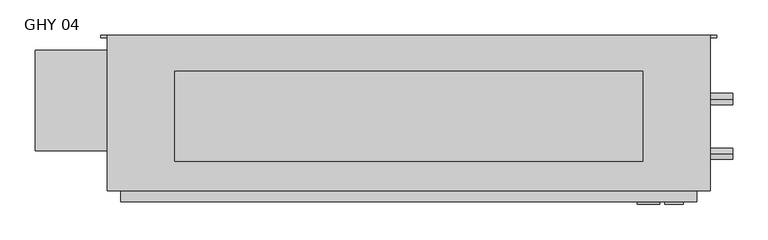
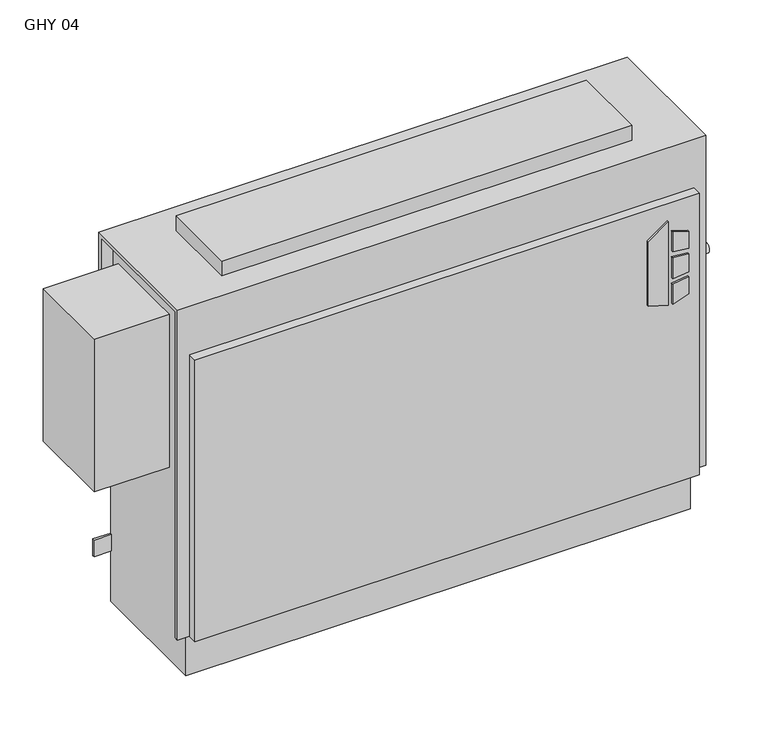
"""IFC4 building model written with IfcOpenShell, lengths in millimetres: proxy geometry, Vertical_Fan_Coil_Unit_-_GHY_-_IEC_-_2-Pipe_TS-FR_RH_2022 : GHY 04."""

from ifc_helpers import new_model, si_unit, point, frame, frame_2d, origin, place, context, project, spatial, polyline, circle_curve, trimmed, segment, composite_curve, outline, extrude, source, transform, mapped, element, save
from ifc_brep_helpers import plane_surface, revolved_surface, advanced_brep


def ghy_04_6b61c7ca(model_context):
    return source(origin(), model_context, "Body", "SolidModel", [
        extrude(outline(polyline([(391.6086829, 474.7368862), (381.6606126, 506.9102728), (523.831537, 506.9102728), (500.8095309, 474.7368862), (391.6086829, 474.7368862)])), frame((0.0, 6.35, 0.0), z_axis=(0.0, 1.0, 0.0), x_axis=(0.0, 0.0, 1.0)), (0.0, 0.0, 1.0), 3.175),
        extrude(outline(polyline([(470.6079683, 513.6686058), (467.4055757, 539.75), (496.6344168, 539.75), (504.6988318, 513.6686058), (470.6079683, 513.6686058)])), frame((0.0, 6.35, 0.0), z_axis=(0.0, 1.0, 0.0), x_axis=(0.0, 0.0, 1.0)), (0.0, 0.0, 1.0), 3.175),
        extrude(outline(polyline([(418.7444414, 539.75), (415.0789404, 513.6686058), (381.6606126, 513.6686058), (390.2948498, 539.75), (418.7444414, 539.75)])), frame((0.0, 6.35, 0.0), z_axis=(0.0, 1.0, 0.0), x_axis=(0.0, 0.0, 1.0)), (0.0, 0.0, 1.0), 3.175),
        extrude(outline(polyline([(458.0596028, 539.75), (460.3414292, 513.6686058), (424.4038806, 513.6686058), (427.1451456, 539.75), (458.0596028, 539.75)])), frame((0.0, 6.35, 0.0), z_axis=(0.0, 1.0, 0.0), x_axis=(0.0, 0.0, 1.0)), (0.0, 0.0, 1.0), 3.175),
        extrude(outline(polyline([(482.6, 193.675), (482.6, 66.675), (-177.8, 66.675), (-177.8, 193.675), (482.6, 193.675)])), frame((0.0, 0.0, 635.0), z_axis=(0.0, 0.0, 1.0), x_axis=(1.0, 0.0, 0.0)), (0.0, 0.0, 1.0), 25.4),
        extrude(outline(composite_curve([segment(trimmed(circle_curve(frame_2d((77.597, 401.574)), 7.9375), [point((77.597, 393.6365))], [point((77.597, 409.5115))], False, "CARTESIAN"), True, "CONTINUOUS"), segment(trimmed(circle_curve(frame_2d((77.597, 401.574)), 7.9375), [point((77.597, 409.5115))], [point((77.597, 393.6365))], False, "CARTESIAN"), True, "CONTINUOUS")], self_intersect=False)), frame((558.8, 0.0, 0.0), z_axis=(1.0, 0.0, 0.0), x_axis=(0.0, 1.0, 0.0)), (0.0, 0.0, 1.0), 50.8),
        extrude(outline(composite_curve([segment(trimmed(circle_curve(frame_2d((154.559, 540.512)), 7.9375), [point((154.559, 532.5745))], [point((154.559, 548.4495))], False, "CARTESIAN"), True, "CONTINUOUS"), segment(trimmed(circle_curve(frame_2d((154.559, 540.512)), 7.9375), [point((154.559, 548.4495))], [point((154.559, 532.5745))], False, "CARTESIAN"), True, "CONTINUOUS")], self_intersect=False)), frame((558.8, 0.0, 0.0), z_axis=(1.0, 0.0, 0.0), x_axis=(0.0, 1.0, 0.0)), (0.0, 0.0, 1.0), 50.8),
        extrude(outline(polyline([(-374.65, 223.266), (-254.0, 223.266), (-254.0, 81.534), (-374.65, 81.534), (-374.65, 223.266)])), frame((0.0, 0.0, 327.025), z_axis=(0.0, 0.0, 1.0), x_axis=(1.0, 0.0, 0.0)), (0.0, 0.0, 1.0), 260.35),
        advanced_brep(
        [(577.85, 244.475, 635.0), (-273.05, 244.475, 635.0), (-273.05, 25.4, 635.0), (577.85, 25.4, 635.0), (-254.0, 244.475, 0.0), (558.8, 244.475, 0.0), (558.8, 34.925, 0.0), (-254.0, 34.925, 0.0), (577.85, 244.475, 558.8), (558.8, 244.475, 558.8), (558.8, 244.475, 414.3375), (587.375, 244.475, 414.3375), (587.375, 244.475, 385.7625), (558.8, 244.475, 385.7625), (558.8, 244.475, 287.3375), (587.375, 244.475, 287.3375), (587.375, 244.475, 258.7625), (558.8, 244.475, 258.7625), (558.8, 244.475, 141.2875), (587.375, 244.475, 141.2875), (587.375, 244.475, 112.7125), (558.8, 244.475, 112.7125), (-254.0, 244.475, 87.3125), (-282.575, 244.475, 87.3125), (-282.575, 244.475, 115.8875), (-254.0, 244.475, 115.8875), (-254.0, 244.475, 258.7625), (-282.575, 244.475, 258.7625), (-282.575, 244.475, 287.3375), (-254.0, 244.475, 287.3375), (-254.0, 244.475, 385.7625), (-282.575, 244.475, 385.7625), (-282.575, 244.475, 414.3375), (-254.0, 244.475, 414.3375), (-254.0, 244.475, 558.8), (-273.05, 244.475, 558.8), (577.0626, 244.475, 127.0), (565.9374, 244.475, 127.0), (577.0626, 244.475, 273.05), (565.9374, 244.475, 273.05), (-261.1374, 244.475, 273.05), (-272.2626, 244.475, 273.05), (577.0626, 244.475, 400.05), (565.9374, 244.475, 400.05), (-261.1374, 244.475, 400.05), (-272.2626, 244.475, 400.05), (-273.05, 238.125, 558.8), (-273.05, 238.125, 628.65), (-273.05, 31.75, 628.65), (-273.05, 31.75, 73.025), (-273.05, 25.4, 73.025), (558.8, 9.525, 552.45), (-254.0, 9.525, 552.45), (-254.0, 9.525, 73.025), (558.8, 9.525, 73.025), (577.85, 25.4, 73.025), (577.85, 31.75, 73.025), (577.85, 31.75, 628.65), (577.85, 238.125, 628.65), (577.85, 238.125, 558.8), (-254.0, 25.4, 73.025), (-254.0, 25.4, 552.45), (558.8, 25.4, 552.45), (558.8, 25.4, 73.025), (-254.0, 31.75, 73.025), (-254.0, 34.925, 73.025), (558.8, 34.925, 73.025), (558.8, 31.75, 73.025), (558.8, 241.3, 112.7125), (558.8, 241.3, 141.2875), (558.8, 241.3, 258.7625), (558.8, 241.3, 287.3375), (558.8, 241.3, 385.7625), (558.8, 241.3, 414.3375), (558.8, 238.125, 558.8), (558.8, 238.125, 628.65), (558.8, 31.75, 628.65), (-254.0, 31.75, 628.65), (-254.0, 238.125, 628.65), (-254.0, 238.125, 558.8), (-254.0, 241.3, 414.3375), (-254.0, 241.3, 385.7625), (-254.0, 241.3, 287.3375), (-254.0, 241.3, 258.7625), (-254.0, 241.3, 115.8875), (-254.0, 241.3, 87.3125), (587.375, 241.3, 112.7125), (587.375, 241.3, 141.2875), (565.9374, 241.3, 127.0), (577.0626, 241.3, 127.0), (587.375, 241.3, 258.7625), (587.375, 241.3, 287.3375), (565.9374, 241.3, 273.05), (577.0626, 241.3, 273.05), (587.375, 241.3, 385.7625), (587.375, 241.3, 414.3375), (565.9374, 241.3, 400.05), (577.0626, 241.3, 400.05), (-282.575, 241.3, 115.8875), (-282.575, 241.3, 87.3125), (-282.575, 241.3, 287.3375), (-282.575, 241.3, 258.7625), (-272.2626, 241.3, 273.05), (-261.1374, 241.3, 273.05), (-282.575, 241.3, 414.3375), (-282.575, 241.3, 385.7625), (-272.2626, 241.3, 400.05), (-261.1374, 241.3, 400.05)],
        [
            (0, 1),
            (1, 2),
            (2, 3),
            (3, 0),
            (4, 5),
            (5, 6),
            (6, 7),
            (7, 4),
            (0, 8),
            (8, 9),
            (9, 10),
            (10, 11),
            (11, 12),
            (12, 13),
            (13, 14),
            (14, 15),
            (15, 16),
            (16, 17),
            (17, 18),
            (18, 19),
            (19, 20),
            (20, 21),
            (21, 5),
            (4, 22),
            (22, 23),
            (23, 24),
            (24, 25),
            (25, 26),
            (26, 27),
            (27, 28),
            (28, 29),
            (29, 30),
            (30, 31),
            (31, 32),
            (32, 33),
            (33, 34),
            (34, 35),
            (35, 1),
            (36, 37, circle_curve(frame((571.5, 244.475, 127.0), z_axis=(0.0, -1.0, 0.0), x_axis=(-1.0, 0.0, 0.0)), 5.5626)),
            (37, 36, circle_curve(frame((571.5, 244.475, 127.0), z_axis=(0.0, -1.0, 0.0), x_axis=(-1.0, 0.0, 0.0)), 5.5626)),
            (38, 39, circle_curve(frame((571.5, 244.475, 273.05), z_axis=(0.0, -1.0, 0.0), x_axis=(-1.0, 0.0, 0.0)), 5.5626)),
            (39, 38, circle_curve(frame((571.5, 244.475, 273.05), z_axis=(0.0, -1.0, 0.0), x_axis=(-1.0, 0.0, 0.0)), 5.5626)),
            (40, 41, circle_curve(frame((-266.7, 244.475, 273.05), z_axis=(0.0, -1.0, 0.0), x_axis=(-1.0, 0.0, 0.0)), 5.5626)),
            (41, 40, circle_curve(frame((-266.7, 244.475, 273.05), z_axis=(0.0, -1.0, 0.0), x_axis=(-1.0, 0.0, 0.0)), 5.5626)),
            (42, 43, circle_curve(frame((571.5, 244.475, 400.05), z_axis=(0.0, -1.0, 0.0), x_axis=(-1.0, 0.0, 0.0)), 5.5626)),
            (43, 42, circle_curve(frame((571.5, 244.475, 400.05), z_axis=(0.0, -1.0, 0.0), x_axis=(-1.0, 0.0, 0.0)), 5.5626)),
            (44, 45, circle_curve(frame((-266.7, 244.475, 400.05), z_axis=(0.0, -1.0, 0.0), x_axis=(-1.0, 0.0, 0.0)), 5.5626)),
            (45, 44, circle_curve(frame((-266.7, 244.475, 400.05), z_axis=(0.0, -1.0, 0.0), x_axis=(-1.0, 0.0, 0.0)), 5.5626)),
            (35, 46),
            (46, 47),
            (47, 48),
            (48, 49),
            (49, 50),
            (50, 2),
            (51, 52),
            (52, 53),
            (53, 54),
            (54, 51),
            (3, 55),
            (55, 56),
            (56, 57),
            (57, 58),
            (58, 59),
            (59, 8),
            (50, 60),
            (60, 61),
            (61, 62),
            (62, 63),
            (63, 55),
            (51, 62),
            (61, 52),
            (53, 60),
            (49, 64),
            (64, 65),
            (65, 66),
            (66, 67),
            (67, 56),
            (63, 54),
            (6, 66),
            (65, 7),
            (21, 68),
            (68, 69),
            (69, 18),
            (17, 70),
            (70, 71),
            (71, 14),
            (13, 72),
            (72, 73),
            (73, 10),
            (9, 74),
            (74, 75),
            (75, 76),
            (76, 67),
            (64, 77),
            (77, 78),
            (78, 79),
            (79, 34),
            (33, 80),
            (80, 81),
            (81, 30),
            (29, 82),
            (82, 83),
            (83, 26),
            (25, 84),
            (84, 85),
            (85, 22),
            (74, 59),
            (58, 75),
            (76, 57),
            (48, 77),
            (79, 46),
            (78, 47),
            (68, 86),
            (86, 87),
            (87, 69),
            (88, 89, circle_curve(frame((571.5, 241.3, 127.0), z_axis=(0.0, 1.0, 0.0), x_axis=(-1.0, 0.0, 0.0)), 5.5626)),
            (89, 88, circle_curve(frame((571.5, 241.3, 127.0), z_axis=(0.0, 1.0, 0.0), x_axis=(-1.0, 0.0, 0.0)), 5.5626)),
            (90, 91),
            (91, 71),
            (70, 90),
            (92, 93, circle_curve(frame((571.5, 241.3, 273.05), z_axis=(0.0, 1.0, 0.0), x_axis=(-1.0, 0.0, 0.0)), 5.5626)),
            (93, 92, circle_curve(frame((571.5, 241.3, 273.05), z_axis=(0.0, 1.0, 0.0), x_axis=(-1.0, 0.0, 0.0)), 5.5626)),
            (94, 95),
            (95, 73),
            (72, 94),
            (96, 97, circle_curve(frame((571.5, 241.3, 400.05), z_axis=(0.0, 1.0, 0.0), x_axis=(-1.0, 0.0, 0.0)), 5.5626)),
            (97, 96, circle_curve(frame((571.5, 241.3, 400.05), z_axis=(0.0, 1.0, 0.0), x_axis=(-1.0, 0.0, 0.0)), 5.5626)),
            (98, 99),
            (99, 85),
            (84, 98),
            (82, 100),
            (100, 101),
            (101, 83),
            (102, 103, circle_curve(frame((-266.7, 241.3, 273.05), z_axis=(0.0, 1.0, 0.0), x_axis=(-1.0, 0.0, 0.0)), 5.5626)),
            (103, 102, circle_curve(frame((-266.7, 241.3, 273.05), z_axis=(0.0, 1.0, 0.0), x_axis=(-1.0, 0.0, 0.0)), 5.5626)),
            (104, 105),
            (105, 81),
            (80, 104),
            (106, 107, circle_curve(frame((-266.7, 241.3, 400.05), z_axis=(0.0, 1.0, 0.0), x_axis=(-1.0, 0.0, 0.0)), 5.5626)),
            (107, 106, circle_curve(frame((-266.7, 241.3, 400.05), z_axis=(0.0, 1.0, 0.0), x_axis=(-1.0, 0.0, 0.0)), 5.5626)),
            (87, 19),
            (86, 20),
            (16, 90),
            (91, 15),
            (12, 94),
            (95, 11),
            (24, 98),
            (99, 23),
            (101, 27),
            (100, 28),
            (32, 104),
            (105, 31),
            (88, 37),
            (36, 89),
            (92, 39),
            (38, 93),
            (102, 41),
            (40, 103),
            (96, 43),
            (42, 97),
            (106, 45),
            (44, 107),
        ],
        [
            plane_surface(frame((-273.05, 244.475, 635.0), z_axis=(0.0, 0.0, 1.0), x_axis=(-1.0, 0.0, 0.0))),
            plane_surface(frame((-273.05, 244.475, 0.0), z_axis=(0.0, 0.0, -1.0), x_axis=(1.0, 0.0, 0.0))),
            plane_surface(frame((577.85, 244.475, 635.0), z_axis=(0.0, 1.0, 0.0), x_axis=(0.0, 0.0, -1.0))),
            plane_surface(frame((-273.05, 244.475, 635.0), z_axis=(-1.0, 0.0, 0.0), x_axis=(0.0, 0.0, -1.0))),
            plane_surface(frame((-273.05, 9.525, 635.0), z_axis=(0.0, -1.0, 0.0), x_axis=(0.0, 0.0, -1.0))),
            plane_surface(frame((577.85, 9.525, 635.0), z_axis=(1.0, 0.0, 0.0), x_axis=(0.0, 0.0, -1.0))),
            plane_surface(frame((-400.05, 25.4, 635.0), z_axis=(0.0, -1.0, 0.0), x_axis=(1.0, 0.0, 0.0))),
            plane_surface(frame((-400.05, 25.4, 552.45), z_axis=(0.0, 0.0, 1.0), x_axis=(1.0, 0.0, 0.0))),
            plane_surface(frame((-273.05, 9.525, 73.025), z_axis=(0.0, 0.0, -1.0), x_axis=(1.0, 0.0, 0.0))),
            plane_surface(frame((-273.05, 34.925, 73.025), z_axis=(0.0, -1.0, 0.0), x_axis=(1.0, 0.0, 0.0))),
            plane_surface(frame((558.8, 25.4, 73.025), z_axis=(1.0, 0.0, 0.0), x_axis=(0.0, -1.0, 0.0))),
            plane_surface(frame((-254.0, 25.4, 552.45), z_axis=(-1.0, 0.0, 0.0), x_axis=(0.0, -1.0, 0.0))),
            plane_surface(frame((558.8, 244.475, 0.0), z_axis=(1.0, 0.0, 0.0), x_axis=(0.0, -1.0, 0.0))),
            plane_surface(frame((-254.0, 244.475, 73.025), z_axis=(-1.0, 0.0, 0.0), x_axis=(0.0, -1.0, 0.0))),
            plane_surface(frame((558.8, 238.125, 628.65), z_axis=(0.0, -1.0, 0.0), x_axis=(1.0, 0.0, 0.0))),
            plane_surface(frame((558.8, 238.125, 558.8), z_axis=(0.0, 0.0, -1.0), x_axis=(1.0, 0.0, 0.0))),
            plane_surface(frame((558.8, 31.75, 73.025), z_axis=(0.0, 1.0, 0.0), x_axis=(1.0, 0.0, 0.0))),
            plane_surface(frame((558.8, 31.75, 628.65), z_axis=(0.0, 0.0, -1.0), x_axis=(1.0, 0.0, 0.0))),
            plane_surface(frame((-254.0, 31.75, 628.65), z_axis=(0.0, 1.0, 0.0), x_axis=(-1.0, 0.0, 0.0))),
            plane_surface(frame((-254.0, 244.475, 558.8), z_axis=(0.0, 0.0, -1.0), x_axis=(-1.0, 0.0, 0.0))),
            plane_surface(frame((-254.0, 238.125, 558.8), z_axis=(0.0, -1.0, 0.0), x_axis=(-1.0, 0.0, 0.0))),
            plane_surface(frame((-254.0, 238.125, 628.65), z_axis=(0.0, 0.0, -1.0), x_axis=(-1.0, 0.0, 0.0))),
            plane_surface(frame((587.375, 241.3, 141.2875), z_axis=(0.0, -1.0, 0.0), x_axis=(-1.0, 0.0, 0.0))),
            plane_surface(frame((558.8, 244.475, 141.2875), z_axis=(0.0, 0.0, 1.0), x_axis=(0.0, -1.0, 0.0))),
            plane_surface(frame((587.375, 244.475, 141.2875), z_axis=(1.0, 0.0, 0.0), x_axis=(0.0, -1.0, 0.0))),
            plane_surface(frame((587.375, 244.475, 112.7125), z_axis=(0.0, 0.0, -1.0), x_axis=(0.0, -1.0, 0.0))),
            plane_surface(frame((587.375, 244.475, 258.7625), z_axis=(0.0, 0.0, -1.0), x_axis=(0.0, -1.0, 0.0))),
            plane_surface(frame((558.8, 244.475, 287.3375), z_axis=(0.0, 0.0, 1.0), x_axis=(0.0, -1.0, 0.0))),
            plane_surface(frame((587.375, 244.475, 287.3375), z_axis=(1.0, 0.0, 0.0), x_axis=(0.0, -1.0, 0.0))),
            plane_surface(frame((587.375, 244.475, 385.7625), z_axis=(0.0, 0.0, -1.0), x_axis=(0.0, -1.0, 0.0))),
            plane_surface(frame((558.8, 244.475, 414.3375), z_axis=(0.0, 0.0, 1.0), x_axis=(0.0, -1.0, 0.0))),
            plane_surface(frame((587.375, 244.475, 414.3375), z_axis=(1.0, 0.0, 0.0), x_axis=(0.0, -1.0, 0.0))),
            plane_surface(frame((-282.575, 244.475, 115.8875), z_axis=(0.0, 0.0, 1.0), x_axis=(0.0, -1.0, 0.0))),
            plane_surface(frame((-254.0, 244.475, 87.3125), z_axis=(0.0, 0.0, -1.0), x_axis=(0.0, -1.0, 0.0))),
            plane_surface(frame((-282.575, 244.475, 87.3125), z_axis=(-1.0, 0.0, 0.0), x_axis=(0.0, -1.0, 0.0))),
            plane_surface(frame((-254.0, 244.475, 258.7625), z_axis=(0.0, 0.0, -1.0), x_axis=(0.0, -1.0, 0.0))),
            plane_surface(frame((-282.575, 244.475, 258.7625), z_axis=(-1.0, 0.0, 0.0), x_axis=(0.0, -1.0, 0.0))),
            plane_surface(frame((-282.575, 244.475, 287.3375), z_axis=(0.0, 0.0, 1.0), x_axis=(0.0, -1.0, 0.0))),
            plane_surface(frame((-282.575, 244.475, 414.3375), z_axis=(0.0, 0.0, 1.0), x_axis=(0.0, -1.0, 0.0))),
            plane_surface(frame((-254.0, 244.475, 385.7625), z_axis=(0.0, 0.0, -1.0), x_axis=(0.0, -1.0, 0.0))),
            plane_surface(frame((-282.575, 244.475, 385.7625), z_axis=(-1.0, 0.0, 0.0), x_axis=(0.0, -1.0, 0.0))),
            revolved_surface(polyline([(565.9374, 241.3, 127.0), (565.9374, 244.475, 127.0)]), (571.5, 244.475, 127.0), (0.0, -1.0, 0.0)),
            revolved_surface(polyline([(565.9374, 241.3, 273.05), (565.9374, 244.475, 273.05)]), (571.5, 244.475, 273.05), (0.0, -1.0, 0.0)),
            revolved_surface(polyline([(-272.26259999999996, 241.3, 273.05), (-272.26259999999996, 244.475, 273.05)]), (-266.7, 244.475, 273.05), (0.0, -1.0, 0.0)),
            revolved_surface(polyline([(565.9374, 241.3, 400.05), (565.9374, 244.475, 400.05)]), (571.5, 244.475, 400.05), (0.0, -1.0, 0.0)),
            revolved_surface(polyline([(-272.26259999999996, 241.3, 400.05), (-272.26259999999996, 244.475, 400.05)]), (-266.7, 244.475, 400.05), (0.0, -1.0, 0.0)),
        ],
        [
            (0, [[1, 2, 3, 4]]),
            (1, [[5, 6, 7, 8]]),
            (2, [[-1, 9, 10, 11, 12, 13, 14, 15, 16, 17, 18, 19, 20, 21, 22, 23, -5, 24, 25, 26, 27, 28, 29, 30, 31, 32, 33, 34, 35, 36, 37, 38], [39, 40], [41, 42], [43, 44], [45, 46], [47, 48]]),
            (3, [[-2, -38, 49, 50, 51, 52, 53, 54]]),
            (4, [[55, 56, 57, 58]]),
            (5, [[-4, 59, 60, 61, 62, 63, 64, -9]]),
            (6, [[-3, -54, 65, 66, 67, 68, 69, -59]]),
            (7, [[-55, 70, -67, 71]]),
            (8, [[-57, 72, -65, -53, 73, 74, 75, 76, 77, -60, -69, 78]]),
            (9, [[-7, 79, -75, 80]]),
            (10, [[-68, -70, -58, -78]]),
            (11, [[-66, -72, -56, -71]]),
            (12, [[-6, -23, 81, 82, 83, -19, 84, 85, 86, -15, 87, 88, 89, -11, 90, 91, 92, 93, -76, -79]]),
            (13, [[-8, -80, -74, 94, 95, 96, 97, -36, 98, 99, 100, -32, 101, 102, 103, -28, 104, 105, 106, -24]]),
            (14, [[-91, 107, -63, 108]]),
            (15, [[-90, -10, -64, -107]]),
            (16, [[-93, 109, -61, -77]]),
            (17, [[-92, -108, -62, -109]]),
            (18, [[-94, -73, -52, 110]]),
            (19, [[-97, 111, -49, -37]]),
            (20, [[-96, 112, -50, -111]]),
            (21, [[-95, -110, -51, -112]]),
            (22, [[113, 114, 115, -82], [116, 117]]),
            (22, [[118, 119, -85, 120], [121, 122]]),
            (22, [[123, 124, -88, 125], [126, 127]]),
            (22, [[128, 129, -105, 130]]),
            (22, [[131, 132, 133, -102], [134, 135]]),
            (22, [[136, 137, -99, 138], [139, 140]]),
            (23, [[-115, 141, -20, -83]]),
            (24, [[-114, 142, -21, -141]]),
            (25, [[-113, -81, -22, -142]]),
            (26, [[-120, -84, -18, 143]]),
            (27, [[-119, 144, -16, -86]]),
            (28, [[-118, -143, -17, -144]]),
            (29, [[-125, -87, -14, 145]]),
            (30, [[-124, 146, -12, -89]]),
            (31, [[-123, -145, -13, -146]]),
            (32, [[-130, -104, -27, 147]]),
            (33, [[-129, 148, -25, -106]]),
            (34, [[-128, -147, -26, -148]]),
            (35, [[-133, 149, -29, -103]]),
            (36, [[-132, 150, -30, -149]]),
            (37, [[-131, -101, -31, -150]]),
            (38, [[-138, -98, -35, 151]]),
            (39, [[-137, 152, -33, -100]]),
            (40, [[-136, -151, -34, -152]]),
            (41, [[153, -39, 154, -116]]),
            (41, [[-153, -117, -154, -40]]),
            (42, [[155, -41, 156, -121]]),
            (42, [[-155, -122, -156, -42]]),
            (43, [[157, -43, 158, -134]]),
            (43, [[-157, -135, -158, -44]]),
            (44, [[159, -45, 160, -126]]),
            (44, [[-159, -127, -160, -46]]),
            (45, [[161, -47, 162, -139]]),
            (45, [[-161, -140, -162, -48]]),
        ],
    ),
    ])


if __name__ == "__main__":
    model = new_model("IFC4")
    model_context = context("Model", 3, world=origin())
    ifc_project = project(units=[si_unit("LENGTHUNIT", "METRE", prefix="MILLI")], contexts=[model_context])
    site = spatial("IfcSite", under=ifc_project)
    building = spatial("IfcBuilding", under=site)
    placement = place(None, origin())
    ghy_04_shape = ghy_04_6b61c7ca(model_context)
    element("IfcBuildingElementProxy", 1, Name="Vertical_Fan_Coil_Unit_-_GHY_-_IEC_-_2-Pipe_TS-FR_RH_2022 : GHY 04", ObjectType="Vertical_Fan_Coil_Unit_-_GHY_-_IEC_-_2-Pipe_TS-FR_RH_2022 : GHY 04", at=placement, inside=building, context=model_context, shape_type="MappedRepresentation", body=[
        mapped(ghy_04_shape, transform((0.0, 0.0, 0.0), x_axis=(1.0, 0.0, 0.0), y_axis=(0.0, 1.0, 0.0), z_axis=(0.0, 0.0, 1.0))),
    ])
    save(model, "model.ifc")
